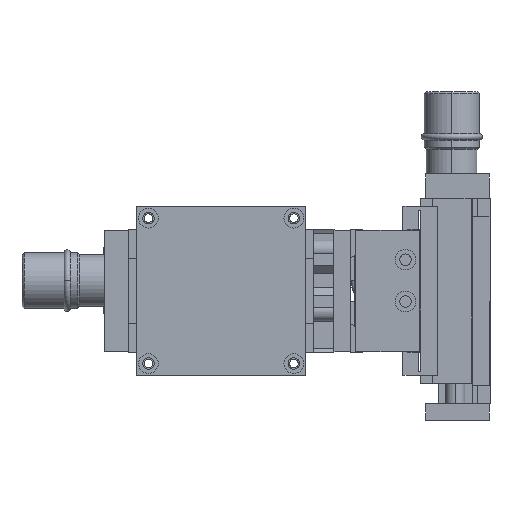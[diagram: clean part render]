
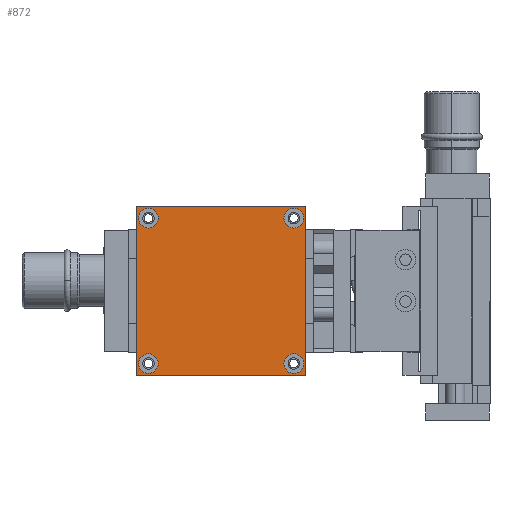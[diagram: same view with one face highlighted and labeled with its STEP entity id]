
A CAD part, left-side view. The second image highlights one B-rep face of the part: STEP entity #872.
In plain terms, the highlighted planar face has unit normal (-1, 0, 0) as drawn and (0, 1, 0) by its records, which use the part's own axes.
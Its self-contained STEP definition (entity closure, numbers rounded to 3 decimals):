
#77 = VERTEX_POINT ( 'NONE', #8839 ) ;
#78 = ORIENTED_EDGE ( 'NONE', *, *, #10809, .F. ) ;
#140 = VERTEX_POINT ( 'NONE', #8866 ) ;
#376 = EDGE_CURVE ( 'NONE', #1288, #140, #8963, .T. ) ;
#592 = VERTEX_POINT ( 'NONE', #9045 ) ;
#632 = EDGE_LOOP ( 'NONE', ( #78, #10261 ) ) ;
#666 = LINE ( 'NONE', #667, #668 ) ;
#667 = CARTESIAN_POINT ( 'NONE',  ( -20.6, 5., -20.6 ) ) ;
#668 = VECTOR ( 'NONE', #669, 1000. ) ;
#669 = DIRECTION ( 'NONE',  ( 1., 0., 0. ) ) ;
#734 = VERTEX_POINT ( 'NONE', #9116 ) ;
#872 = ADVANCED_FACE ( 'NONE', ( #9177, #9178, #9179, #9180, #9181 ), #9182, .T. ) ;
#1288 = VERTEX_POINT ( 'NONE', #9318 ) ;
#1844 = VERTEX_POINT ( 'NONE', #9519 ) ;
#1942 = CIRCLE ( 'NONE', #1943, 2.4 ) ;
#1943 = AXIS2_PLACEMENT_3D ( 'NONE', #1944, #1945, #1946 ) ;
#1944 = CARTESIAN_POINT ( 'NONE',  ( 17.7, 5., 17.7 ) ) ;
#1945 = DIRECTION ( 'NONE',  ( 0., 1., 0. ) ) ;
#1946 = DIRECTION ( 'NONE',  ( 0., 0., 1. ) ) ;
#2088 = EDGE_CURVE ( 'NONE', #3168, #1844, #9639, .T. ) ;
#2713 = CARTESIAN_POINT ( 'NONE',  ( 20.6, 5., 20.6 ) ) ;
#2786 = LINE ( 'NONE', #2787, #2788 ) ;
#2787 = CARTESIAN_POINT ( 'NONE',  ( 20.6, 5., 20.6 ) ) ;
#2788 = VECTOR ( 'NONE', #2789, 1000. ) ;
#2789 = DIRECTION ( 'NONE',  ( 0., 0., -1. ) ) ;
#3026 = CARTESIAN_POINT ( 'NONE',  ( 17.7, 5., -15.3 ) ) ;
#3114 = CARTESIAN_POINT ( 'NONE',  ( -17.7, 5., 20.1 ) ) ;
#3162 = CIRCLE ( 'NONE', #3163, 2.4 ) ;
#3163 = AXIS2_PLACEMENT_3D ( 'NONE', #3164, #3165, #3174 ) ;
#3164 = CARTESIAN_POINT ( 'NONE',  ( 17.7, 5., -17.7 ) ) ;
#3165 = DIRECTION ( 'NONE',  ( 0., 1., 0. ) ) ;
#3168 = VERTEX_POINT ( 'NONE', #10044 ) ;
#3174 = DIRECTION ( 'NONE',  ( 0., 0., 1. ) ) ;
#3205 = CIRCLE ( 'NONE', #3206, 2.4 ) ;
#3206 = AXIS2_PLACEMENT_3D ( 'NONE', #3209, #3210, #3211 ) ;
#3209 = CARTESIAN_POINT ( 'NONE',  ( -17.7, 5., 17.7 ) ) ;
#3210 = DIRECTION ( 'NONE',  ( 0., 1., 0. ) ) ;
#3211 = DIRECTION ( 'NONE',  ( 0., 0., 1. ) ) ;
#3317 = CIRCLE ( 'NONE', #3318, 2.4 ) ;
#3318 = AXIS2_PLACEMENT_3D ( 'NONE', #3319, #3320, #3321 ) ;
#3319 = CARTESIAN_POINT ( 'NONE',  ( -17.7, 5., 17.7 ) ) ;
#3320 = DIRECTION ( 'NONE',  ( 0., 1., 0. ) ) ;
#3321 = DIRECTION ( 'NONE',  ( 0., 0., 1. ) ) ;
#3595 = VERTEX_POINT ( 'NONE', #10192 ) ;
#3596 = ORIENTED_EDGE ( 'NONE', *, *, #7950, .F. ) ;
#3839 = EDGE_CURVE ( 'NONE', #4925, #3595, #10288, .T. ) ;
#3933 = CIRCLE ( 'NONE', #3934, 2.4 ) ;
#3934 = AXIS2_PLACEMENT_3D ( 'NONE', #3935, #3940, #3941 ) ;
#3935 = CARTESIAN_POINT ( 'NONE',  ( -17.7, 5., -17.7 ) ) ;
#3940 = DIRECTION ( 'NONE',  ( 0., 1., 0. ) ) ;
#3941 = DIRECTION ( 'NONE',  ( 0., 0., 1. ) ) ;
#3981 = EDGE_LOOP ( 'NONE', ( #3596, #7837 ) ) ;
#4213 = ORIENTED_EDGE ( 'NONE', *, *, #10260, .T. ) ;
#4652 = CIRCLE ( 'NONE', #4653, 2.4 ) ;
#4653 = AXIS2_PLACEMENT_3D ( 'NONE', #4654, #4655, #4656 ) ;
#4654 = CARTESIAN_POINT ( 'NONE',  ( 17.7, 5., -17.7 ) ) ;
#4655 = DIRECTION ( 'NONE',  ( 0., 1., 0. ) ) ;
#4656 = DIRECTION ( 'NONE',  ( 0., 0., 1. ) ) ;
#4762 = EDGE_CURVE ( 'NONE', #10125, #4925, #10685, .T. ) ;
#4925 = VERTEX_POINT ( 'NONE', #10727 ) ;
#5122 = ORIENTED_EDGE ( 'NONE', *, *, #4762, .F. ) ;
#5834 = ORIENTED_EDGE ( 'NONE', *, *, #3839, .F. ) ;
#6384 = EDGE_CURVE ( 'NONE', #3595, #77, #666, .T. ) ;
#6697 = ORIENTED_EDGE ( 'NONE', *, *, #6384, .F. ) ;
#6805 = EDGE_LOOP ( 'NONE', ( #6697, #5834, #5122, #4213 ) ) ;
#6851 = ORIENTED_EDGE ( 'NONE', *, *, #2088, .F. ) ;
#6959 = EDGE_CURVE ( 'NONE', #1844, #3168, #1942, .T. ) ;
#7507 = ORIENTED_EDGE ( 'NONE', *, *, #376, .F. ) ;
#7612 = EDGE_CURVE ( 'NONE', #140, #1288, #3933, .T. ) ;
#7688 = ORIENTED_EDGE ( 'NONE', *, *, #7612, .F. ) ;
#7793 = EDGE_LOOP ( 'NONE', ( #7688, #7507 ) ) ;
#7837 = ORIENTED_EDGE ( 'NONE', *, *, #10772, .F. ) ;
#7950 = EDGE_CURVE ( 'NONE', #10539, #592, #4652, .T. ) ;
#8839 = CARTESIAN_POINT ( 'NONE',  ( 20.6, 5., -20.6 ) ) ;
#8866 = CARTESIAN_POINT ( 'NONE',  ( -17.7, 5., -15.3 ) ) ;
#8963 = CIRCLE ( 'NONE', #8964, 2.4 ) ;
#8964 = AXIS2_PLACEMENT_3D ( 'NONE', #8965, #8971, #8972 ) ;
#8965 = CARTESIAN_POINT ( 'NONE',  ( -17.7, 5., -17.7 ) ) ;
#8971 = DIRECTION ( 'NONE',  ( 0., 1., 0. ) ) ;
#8972 = DIRECTION ( 'NONE',  ( 0., 0., 1. ) ) ;
#9045 = CARTESIAN_POINT ( 'NONE',  ( 17.7, 5., -20.1 ) ) ;
#9116 = CARTESIAN_POINT ( 'NONE',  ( -17.7, 5., 15.3 ) ) ;
#9177 = FACE_BOUND ( 'NONE', #632, .T. ) ;
#9178 = FACE_BOUND ( 'NONE', #10027, .T. ) ;
#9179 = FACE_OUTER_BOUND ( 'NONE', #6805, .T. ) ;
#9180 = FACE_BOUND ( 'NONE', #3981, .T. ) ;
#9181 = FACE_BOUND ( 'NONE', #7793, .T. ) ;
#9182 = PLANE ( 'NONE',  #9183 ) ;
#9183 = AXIS2_PLACEMENT_3D ( 'NONE', #9184, #9185, #9186 ) ;
#9184 = CARTESIAN_POINT ( 'NONE',  ( -20.6, 5., 20.6 ) ) ;
#9185 = DIRECTION ( 'NONE',  ( 0., 1., 0. ) ) ;
#9186 = DIRECTION ( 'NONE',  ( -1., 0., 0. ) ) ;
#9318 = CARTESIAN_POINT ( 'NONE',  ( -17.7, 5., -20.1 ) ) ;
#9519 = CARTESIAN_POINT ( 'NONE',  ( 17.7, 5., 20.1 ) ) ;
#9639 = CIRCLE ( 'NONE', #9640, 2.4 ) ;
#9640 = AXIS2_PLACEMENT_3D ( 'NONE', #9641, #9642, #9643 ) ;
#9641 = CARTESIAN_POINT ( 'NONE',  ( 17.7, 5., 17.7 ) ) ;
#9642 = DIRECTION ( 'NONE',  ( 0., 1., 0. ) ) ;
#9643 = DIRECTION ( 'NONE',  ( 0., 0., 1. ) ) ;
#9652 = ORIENTED_EDGE ( 'NONE', *, *, #6959, .F. ) ;
#10027 = EDGE_LOOP ( 'NONE', ( #9652, #6851 ) ) ;
#10044 = CARTESIAN_POINT ( 'NONE',  ( 17.7, 5., 15.3 ) ) ;
#10125 = VERTEX_POINT ( 'NONE', #2713 ) ;
#10192 = CARTESIAN_POINT ( 'NONE',  ( -20.6, 5., -20.6 ) ) ;
#10260 = EDGE_CURVE ( 'NONE', #10125, #77, #2786, .T. ) ;
#10261 = ORIENTED_EDGE ( 'NONE', *, *, #10910, .F. ) ;
#10288 = LINE ( 'NONE', #10289, #10290 ) ;
#10289 = CARTESIAN_POINT ( 'NONE',  ( -20.6, 5., 20.6 ) ) ;
#10290 = VECTOR ( 'NONE', #10291, 1000. ) ;
#10291 = DIRECTION ( 'NONE',  ( 0., 0., -1. ) ) ;
#10539 = VERTEX_POINT ( 'NONE', #3026 ) ;
#10677 = VERTEX_POINT ( 'NONE', #3114 ) ;
#10685 = LINE ( 'NONE', #10686, #10687 ) ;
#10686 = CARTESIAN_POINT ( 'NONE',  ( 20.6, 5., 20.6 ) ) ;
#10687 = VECTOR ( 'NONE', #10688, 1000. ) ;
#10688 = DIRECTION ( 'NONE',  ( -1., 0., 0. ) ) ;
#10727 = CARTESIAN_POINT ( 'NONE',  ( -20.6, 5., 20.6 ) ) ;
#10772 = EDGE_CURVE ( 'NONE', #592, #10539, #3162, .T. ) ;
#10809 = EDGE_CURVE ( 'NONE', #10677, #734, #3205, .T. ) ;
#10910 = EDGE_CURVE ( 'NONE', #734, #10677, #3317, .T. ) ;
